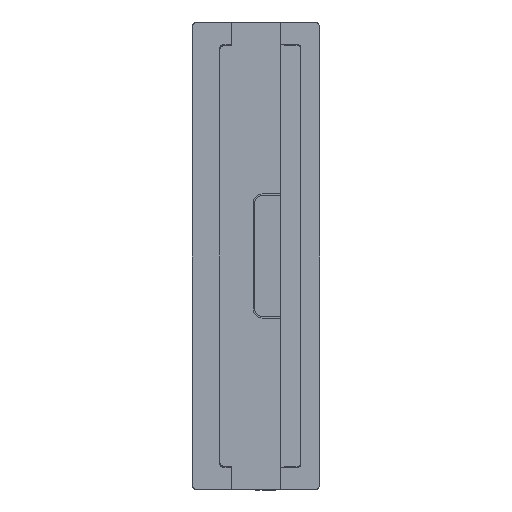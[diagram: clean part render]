
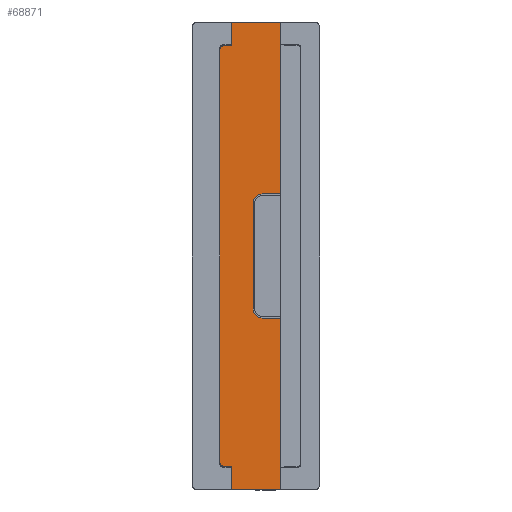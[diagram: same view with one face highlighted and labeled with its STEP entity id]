
A CAD part, left-side view. The second image highlights one B-rep face of the part: STEP entity #68871.
In plain terms, the highlighted planar face has unit normal (-1, 0, 0).
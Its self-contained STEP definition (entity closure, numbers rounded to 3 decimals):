
#532 = DIRECTION ( 'NONE',  ( 1., 0., 0. ) ) ;
#870 = CARTESIAN_POINT ( 'NONE',  ( -2.2, 3.75, -23. ) ) ;
#992 = LINE ( 'NONE', #69960, #40937 ) ;
#3399 = ORIENTED_EDGE ( 'NONE', *, *, #11329, .F. ) ;
#3918 = DIRECTION ( 'NONE',  ( 1., 0., 0. ) ) ;
#4227 = EDGE_CURVE ( 'NONE', #39901, #39361, #107025, .T. ) ;
#4783 = VECTOR ( 'NONE', #27874, 1000. ) ;
#4881 = DIRECTION ( 'NONE',  ( 0., -1., 0.017 ) ) ;
#7747 = CARTESIAN_POINT ( 'NONE',  ( -2.2, 1.4, 5.765 ) ) ;
#9436 = EDGE_CURVE ( 'NONE', #25436, #91933, #86933, .T. ) ;
#9810 = AXIS2_PLACEMENT_3D ( 'NONE', #51841, #115434, #60973 ) ;
#11329 = EDGE_CURVE ( 'NONE', #63132, #56891, #77919, .T. ) ;
#13515 = CARTESIAN_POINT ( 'NONE',  ( -2.2, 3.75, -25.407 ) ) ;
#13845 = EDGE_CURVE ( 'NONE', #107789, #93204, #56152, .T. ) ;
#15216 = CARTESIAN_POINT ( 'NONE',  ( -2.2, -1.6, 25.5 ) ) ;
#15810 = LINE ( 'NONE', #40529, #85654 ) ;
#20871 = VECTOR ( 'NONE', #32996, 1000. ) ;
#21664 = CARTESIAN_POINT ( 'NONE',  ( -2.2, 4.7, -22.59 ) ) ;
#21847 = ORIENTED_EDGE ( 'NONE', *, *, #82284, .T. ) ;
#22073 = LINE ( 'NONE', #49611, #67658 ) ;
#22439 = CARTESIAN_POINT ( 'NONE',  ( -2.2, -1.6, -6.8 ) ) ;
#22790 = VERTEX_POINT ( 'NONE', #56113 ) ;
#23741 = CARTESIAN_POINT ( 'NONE',  ( -2.2, 4.7, 22.59 ) ) ;
#24951 = EDGE_CURVE ( 'NONE', #117532, #85968, #38501, .T. ) ;
#25436 = VERTEX_POINT ( 'NONE', #89527 ) ;
#27874 = DIRECTION ( 'NONE',  ( 0., -1., -0.017 ) ) ;
#30845 = DIRECTION ( 'NONE',  ( 0., 0., -1. ) ) ;
#31983 = CARTESIAN_POINT ( 'NONE',  ( -2.2, -1.6, 23. ) ) ;
#32937 = DIRECTION ( 'NONE',  ( 0., 0., -1. ) ) ;
#32996 = DIRECTION ( 'NONE',  ( 0., -1., -0.017 ) ) ;
#33005 = DIRECTION ( 'NONE',  ( 0., -1., 0.017 ) ) ;
#33035 = EDGE_CURVE ( 'NONE', #25436, #39361, #22073, .T. ) ;
#33533 = LINE ( 'NONE', #94207, #57730 ) ;
#33934 = VECTOR ( 'NONE', #53621, 1000. ) ;
#35698 = VECTOR ( 'NONE', #4881, 1000. ) ;
#36401 = CARTESIAN_POINT ( 'NONE',  ( -2.2, 4.705, -22.89 ) ) ;
#38501 = LINE ( 'NONE', #15216, #41380 ) ;
#39361 = VERTEX_POINT ( 'NONE', #92189 ) ;
#39901 = VERTEX_POINT ( 'NONE', #83276 ) ;
#40529 = CARTESIAN_POINT ( 'NONE',  ( -2.2, -1.6, -88.329 ) ) ;
#40937 = VECTOR ( 'NONE', #33005, 1000. ) ;
#41150 = VERTEX_POINT ( 'NONE', #78820 ) ;
#41380 = VECTOR ( 'NONE', #78941, 1000. ) ;
#44471 = CARTESIAN_POINT ( 'NONE',  ( -2.2, -1.6, -88.329 ) ) ;
#46315 = DIRECTION ( 'NONE',  ( 0., 0., 1. ) ) ;
#46869 = EDGE_CURVE ( 'NONE', #107789, #113345, #90679, .T. ) ;
#48978 = PLANE ( 'NONE',  #117706 ) ;
#49611 = CARTESIAN_POINT ( 'NONE',  ( -2.2, 5., -88.329 ) ) ;
#50026 = VERTEX_POINT ( 'NONE', #64857 ) ;
#50289 = CARTESIAN_POINT ( 'NONE',  ( -2.2, 1.4, -5.765 ) ) ;
#51841 = CARTESIAN_POINT ( 'NONE',  ( -2.2, 0.4, -5.765 ) ) ;
#51845 = ORIENTED_EDGE ( 'NONE', *, *, #68721, .T. ) ;
#53581 = ORIENTED_EDGE ( 'NONE', *, *, #58546, .T. ) ;
#53621 = DIRECTION ( 'NONE',  ( 0., 0., 1. ) ) ;
#53888 = LINE ( 'NONE', #63130, #72348 ) ;
#54174 = ORIENTED_EDGE ( 'NONE', *, *, #4227, .T. ) ;
#55111 = CARTESIAN_POINT ( 'NONE',  ( -2.2, 0.4, 5.765 ) ) ;
#56113 = CARTESIAN_POINT ( 'NONE',  ( -2.2, -1.6, 6.8 ) ) ;
#56152 = CIRCLE ( 'NONE', #9810, 1. ) ;
#56891 = VERTEX_POINT ( 'NONE', #84948 ) ;
#57283 = CARTESIAN_POINT ( 'NONE',  ( -2.2, 0.417, -6.765 ) ) ;
#57730 = VECTOR ( 'NONE', #84662, 1000. ) ;
#58355 = AXIS2_PLACEMENT_3D ( 'NONE', #21664, #85356, #30845 ) ;
#58546 = EDGE_CURVE ( 'NONE', #105544, #50026, #95251, .T. ) ;
#58741 = DIRECTION ( 'NONE',  ( 0., 0., 1. ) ) ;
#59495 = EDGE_CURVE ( 'NONE', #22790, #85968, #82310, .T. ) ;
#60973 = DIRECTION ( 'NONE',  ( 0., 0., -1. ) ) ;
#63130 = CARTESIAN_POINT ( 'NONE',  ( -2.2, 1.4, 11.231 ) ) ;
#63132 = VERTEX_POINT ( 'NONE', #13515 ) ;
#63593 = DIRECTION ( 'NONE',  ( 0., 1., 0.017 ) ) ;
#64238 = DIRECTION ( 'NONE',  ( 0., 0., -1. ) ) ;
#64857 = CARTESIAN_POINT ( 'NONE',  ( -2.2, 0.417, 6.765 ) ) ;
#66163 = LINE ( 'NONE', #99854, #111726 ) ;
#67634 = DIRECTION ( 'NONE',  ( 0., 0., -1. ) ) ;
#67658 = VECTOR ( 'NONE', #58741, 1000. ) ;
#68721 = EDGE_CURVE ( 'NONE', #91933, #56891, #71714, .T. ) ;
#68871 = ADVANCED_FACE ( 'NONE', ( #81652 ), #48978, .F. ) ;
#69960 = CARTESIAN_POINT ( 'NONE',  ( -2.2, -1.6, 6.8 ) ) ;
#71714 = LINE ( 'NONE', #111033, #4783 ) ;
#72348 = VECTOR ( 'NONE', #117952, 1000. ) ;
#73435 = ORIENTED_EDGE ( 'NONE', *, *, #33035, .F. ) ;
#75049 = VECTOR ( 'NONE', #46315, 1000. ) ;
#76749 = EDGE_CURVE ( 'NONE', #100870, #63132, #66163, .T. ) ;
#77096 = DIRECTION ( 'NONE',  ( 0., 0., 1. ) ) ;
#77919 = LINE ( 'NONE', #870, #75049 ) ;
#78571 = CARTESIAN_POINT ( 'NONE',  ( -2.2, -1.6, -25.5 ) ) ;
#78820 = CARTESIAN_POINT ( 'NONE',  ( -2.2, 3.75, 22.907 ) ) ;
#78941 = DIRECTION ( 'NONE',  ( 0., -1., 0.017 ) ) ;
#81652 = FACE_OUTER_BOUND ( 'NONE', #102968, .T. ) ;
#81787 = ORIENTED_EDGE ( 'NONE', *, *, #76749, .F. ) ;
#82284 = EDGE_CURVE ( 'NONE', #50026, #22790, #992, .T. ) ;
#82310 = LINE ( 'NONE', #44471, #33934 ) ;
#83276 = CARTESIAN_POINT ( 'NONE',  ( -2.2, 4.705, 22.89 ) ) ;
#83546 = AXIS2_PLACEMENT_3D ( 'NONE', #55111, #532, #64238 ) ;
#84240 = EDGE_CURVE ( 'NONE', #117532, #41150, #33533, .T. ) ;
#84662 = DIRECTION ( 'NONE',  ( 0., 0., -1. ) ) ;
#84948 = CARTESIAN_POINT ( 'NONE',  ( -2.2, 3.75, -22.907 ) ) ;
#85356 = DIRECTION ( 'NONE',  ( -1., 0., 0. ) ) ;
#85625 = ORIENTED_EDGE ( 'NONE', *, *, #13845, .T. ) ;
#85654 = VECTOR ( 'NONE', #77096, 1000. ) ;
#85968 = VERTEX_POINT ( 'NONE', #103983 ) ;
#86933 = CIRCLE ( 'NONE', #58355, 0.3 ) ;
#87462 = DIRECTION ( 'NONE',  ( -1., 0., 0. ) ) ;
#87509 = ORIENTED_EDGE ( 'NONE', *, *, #84240, .T. ) ;
#87524 = CARTESIAN_POINT ( 'NONE',  ( -2.2, -5.198, -6.863 ) ) ;
#89527 = CARTESIAN_POINT ( 'NONE',  ( -2.2, 5., -22.59 ) ) ;
#89784 = AXIS2_PLACEMENT_3D ( 'NONE', #23741, #87462, #32937 ) ;
#89795 = LINE ( 'NONE', #31983, #35698 ) ;
#90679 = LINE ( 'NONE', #87524, #20871 ) ;
#91933 = VERTEX_POINT ( 'NONE', #36401 ) ;
#92120 = EDGE_CURVE ( 'NONE', #39901, #41150, #89795, .T. ) ;
#92189 = CARTESIAN_POINT ( 'NONE',  ( -2.2, 5., 22.59 ) ) ;
#93204 = VERTEX_POINT ( 'NONE', #50289 ) ;
#94207 = CARTESIAN_POINT ( 'NONE',  ( -2.2, 3.75, 23. ) ) ;
#95251 = CIRCLE ( 'NONE', #83546, 1. ) ;
#97661 = EDGE_CURVE ( 'NONE', #105544, #93204, #53888, .T. ) ;
#98109 = ORIENTED_EDGE ( 'NONE', *, *, #46869, .F. ) ;
#99854 = CARTESIAN_POINT ( 'NONE',  ( -2.2, -1.6, -25.5 ) ) ;
#100870 = VERTEX_POINT ( 'NONE', #78571 ) ;
#101855 = ORIENTED_EDGE ( 'NONE', *, *, #92120, .F. ) ;
#102968 = EDGE_LOOP ( 'NONE', ( #101855, #54174, #73435, #109123, #51845, #3399, #81787, #106318, #98109, #85625, #111207, #53581, #21847, #115796, #115340, #87509 ) ) ;
#103858 = CARTESIAN_POINT ( 'NONE',  ( -2.2, -5.85, 30.5 ) ) ;
#103983 = CARTESIAN_POINT ( 'NONE',  ( -2.2, -1.6, 25.5 ) ) ;
#105544 = VERTEX_POINT ( 'NONE', #7747 ) ;
#106318 = ORIENTED_EDGE ( 'NONE', *, *, #116120, .T. ) ;
#107025 = CIRCLE ( 'NONE', #89784, 0.3 ) ;
#107789 = VERTEX_POINT ( 'NONE', #57283 ) ;
#108181 = CARTESIAN_POINT ( 'NONE',  ( -2.2, 3.75, 25.407 ) ) ;
#109123 = ORIENTED_EDGE ( 'NONE', *, *, #9436, .T. ) ;
#111033 = CARTESIAN_POINT ( 'NONE',  ( -2.2, -4.915, -23.058 ) ) ;
#111207 = ORIENTED_EDGE ( 'NONE', *, *, #97661, .F. ) ;
#111726 = VECTOR ( 'NONE', #63593, 1000. ) ;
#113345 = VERTEX_POINT ( 'NONE', #22439 ) ;
#115340 = ORIENTED_EDGE ( 'NONE', *, *, #24951, .F. ) ;
#115434 = DIRECTION ( 'NONE',  ( 1., 0., 0. ) ) ;
#115796 = ORIENTED_EDGE ( 'NONE', *, *, #59495, .T. ) ;
#116120 = EDGE_CURVE ( 'NONE', #100870, #113345, #15810, .T. ) ;
#117532 = VERTEX_POINT ( 'NONE', #108181 ) ;
#117706 = AXIS2_PLACEMENT_3D ( 'NONE', #103858, #3918, #67634 ) ;
#117952 = DIRECTION ( 'NONE',  ( 0., 0., -1. ) ) ;
